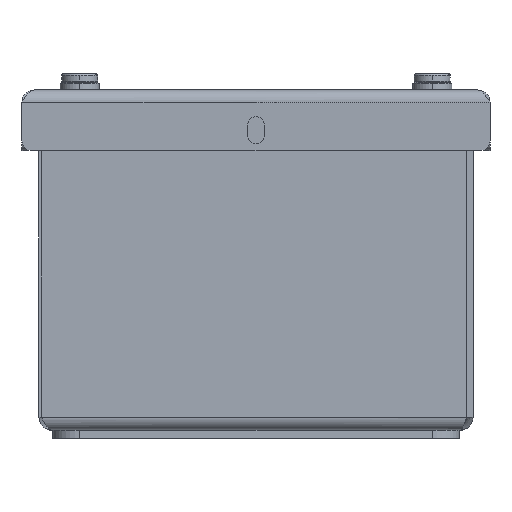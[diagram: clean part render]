
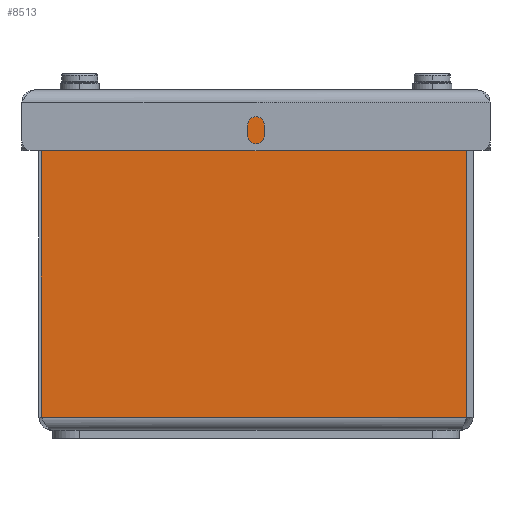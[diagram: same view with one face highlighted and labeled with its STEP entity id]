
A CAD part, left-side view. The second image highlights one B-rep face of the part: STEP entity #8513.
In plain terms, the highlighted planar face has unit normal (-1, 0, 0).
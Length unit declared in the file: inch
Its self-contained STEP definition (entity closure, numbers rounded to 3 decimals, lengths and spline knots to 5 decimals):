
#427=DIRECTION('',(0.,-1.,0.));
#428=VECTOR('',#427,3.918);
#429=CARTESIAN_POINT('',(0.,3.978,0.12));
#430=LINE('',#429,#428);
#2635=CARTESIAN_POINT('',(0.,0.112,2.878));
#2636=DIRECTION('',(-1.,0.,0.));
#2637=DIRECTION('',(0.,-1.,0.));
#2638=AXIS2_PLACEMENT_3D('',#2635,#2636,#2637);
#2643=DIRECTION('',(0.,0.,1.));
#2644=VECTOR('',#2643,2.768);
#2645=CARTESIAN_POINT('',(0.,3.978,0.12));
#2646=LINE('',#2645,#2644);
#2650=DIRECTION('',(0.,0.,1.));
#2651=VECTOR('',#2650,0.042);
#2652=CARTESIAN_POINT('',(0.,0.75625,2.888));
#2653=LINE('',#2652,#2651);
#2657=DIRECTION('',(0.,1.,0.));
#2658=VECTOR('',#2657,0.64425);
#2659=CARTESIAN_POINT('',(0.,0.112,2.93));
#2660=LINE('',#2659,#2658);
#2678=DIRECTION('',(0.,0.,1.));
#2679=VECTOR('',#2678,2.758);
#2680=CARTESIAN_POINT('',(0.,0.06,0.12));
#2681=LINE('',#2680,#2679);
#3028=DIRECTION('',(0.,-1.,0.));
#3029=VECTOR('',#3028,3.22175);
#3030=CARTESIAN_POINT('',(0.,3.978,2.888));
#3031=LINE('',#3030,#3029);
#4163=CARTESIAN_POINT('',(0.,0.06,0.12));
#4165=VERTEX_POINT('',#4163);
#4183=CARTESIAN_POINT('',(0.,3.978,0.12));
#4185=VERTEX_POINT('',#4183);
#4211=CARTESIAN_POINT('',(0.,0.75625,2.888));
#4212=CARTESIAN_POINT('',(0.,0.75625,2.93));
#4213=VERTEX_POINT('',#4211);
#4214=VERTEX_POINT('',#4212);
#4339=CARTESIAN_POINT('',(0.,0.06,2.878));
#4340=CARTESIAN_POINT('',(0.,0.112,2.93));
#4341=VERTEX_POINT('',#4339);
#4342=VERTEX_POINT('',#4340);
#4408=CARTESIAN_POINT('',(0.,3.978,2.888));
#4410=VERTEX_POINT('',#4408);
#8494=CARTESIAN_POINT('',(0.,4.,0.));
#8495=DIRECTION('',(-1.,0.,0.));
#8496=DIRECTION('',(0.,-1.,0.));
#8497=AXIS2_PLACEMENT_3D('',#8494,#8495,#8496);
#8498=PLANE('',#8497);
#8499=ORIENTED_EDGE('',*,*,#8484,.F.);
#8501=ORIENTED_EDGE('',*,*,#8500,.F.);
#8502=ORIENTED_EDGE('',*,*,#5185,.F.);
#8504=ORIENTED_EDGE('',*,*,#8503,.T.);
#8506=ORIENTED_EDGE('',*,*,#8505,.T.);
#8508=ORIENTED_EDGE('',*,*,#8507,.T.);
#8510=ORIENTED_EDGE('',*,*,#8509,.F.);
#8511=EDGE_LOOP('',(#8499,#8501,#8502,#8504,#8506,#8508,#8510));
#8512=FACE_OUTER_BOUND('',#8511,.F.);
#2639=CIRCLE('',#2638,0.052);
#5185=EDGE_CURVE('',#4185,#4165,#430,.T.);
#8484=EDGE_CURVE('',#4341,#4342,#2639,.T.);
#8500=EDGE_CURVE('',#4165,#4341,#2681,.T.);
#8503=EDGE_CURVE('',#4185,#4410,#2646,.T.);
#8505=EDGE_CURVE('',#4410,#4213,#3031,.T.);
#8507=EDGE_CURVE('',#4213,#4214,#2653,.T.);
#8509=EDGE_CURVE('',#4342,#4214,#2660,.T.);
#8513=ADVANCED_FACE('',(#8512),#8498,.T.);
